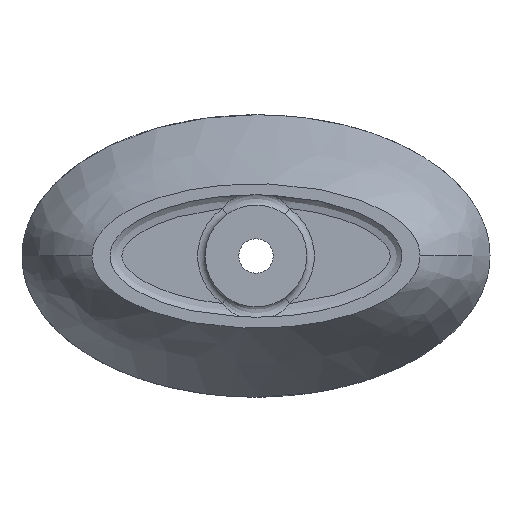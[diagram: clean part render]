
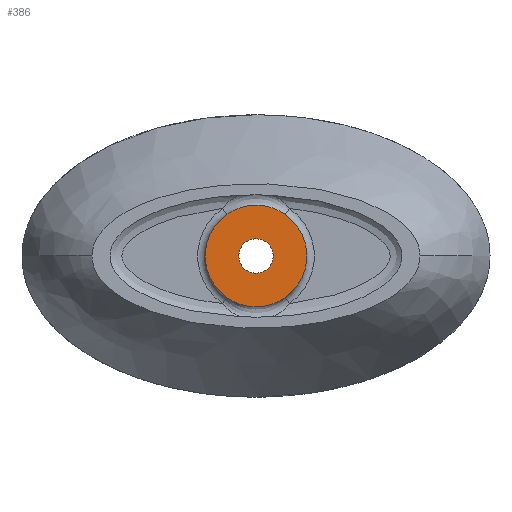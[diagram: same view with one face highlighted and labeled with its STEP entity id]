
A CAD part, front view. The second image highlights one B-rep face of the part: STEP entity #386.
In plain terms, the highlighted planar face has unit normal (0, -1, 0).
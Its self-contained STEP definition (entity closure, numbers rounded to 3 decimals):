
#18=FACE_BOUND('',#78,.T.);
#22=PLANE('',#424);
#52=FACE_OUTER_BOUND('',#77,.T.);
#77=EDGE_LOOP('',(#307,#308,#309,#310));
#78=EDGE_LOOP('',(#311,#312));
#93=CIRCLE('',#416,22.);
#94=CIRCLE('',#417,22.);
#97=CIRCLE('',#425,65.);
#98=CIRCLE('',#426,65.);
#141=B_SPLINE_CURVE_WITH_KNOTS('',3,(#8671,#8672,#8673,#8674,#8675,#8676,
#8677,#8678,#8679,#8680),.UNSPECIFIED.,.F.,.F.,(4,2,2,2,4),(0.,1.972,
4.001,6.028,8.001),.UNSPECIFIED.);
#142=B_SPLINE_CURVE_WITH_KNOTS('',3,(#8683,#8684,#8685,#8686,#8687,#8688,
#8689,#8690,#8691,#8692),.UNSPECIFIED.,.F.,.F.,(4,2,2,2,4),(0.,1.972,
4.001,6.028,8.001),.UNSPECIFIED.);
#153=VERTEX_POINT('',#1194);
#154=VERTEX_POINT('',#1196);
#179=VERTEX_POINT('',#8667);
#180=VERTEX_POINT('',#8668);
#181=VERTEX_POINT('',#8670);
#182=VERTEX_POINT('',#8681);
#192=EDGE_CURVE('',#153,#154,#93,.T.);
#193=EDGE_CURVE('',#154,#153,#94,.T.);
#229=EDGE_CURVE('',#179,#180,#97,.T.);
#230=EDGE_CURVE('',#180,#181,#141,.T.);
#231=EDGE_CURVE('',#181,#182,#98,.T.);
#232=EDGE_CURVE('',#182,#179,#142,.T.);
#307=ORIENTED_EDGE('',*,*,#229,.T.);
#308=ORIENTED_EDGE('',*,*,#230,.T.);
#309=ORIENTED_EDGE('',*,*,#231,.T.);
#310=ORIENTED_EDGE('',*,*,#232,.T.);
#311=ORIENTED_EDGE('',*,*,#193,.F.);
#312=ORIENTED_EDGE('',*,*,#192,.F.);
#386=ADVANCED_FACE('',(#52,#18),#22,.T.);
#416=AXIS2_PLACEMENT_3D('',#1197,#450,#451);
#417=AXIS2_PLACEMENT_3D('',#1198,#452,#453);
#424=AXIS2_PLACEMENT_3D('',#8666,#469,#470);
#425=AXIS2_PLACEMENT_3D('',#8669,#471,#472);
#426=AXIS2_PLACEMENT_3D('',#8682,#473,#474);
#450=DIRECTION('center_axis',(0.,-1.,0.));
#451=DIRECTION('ref_axis',(0.,0.,-1.));
#452=DIRECTION('center_axis',(0.,-1.,0.));
#453=DIRECTION('ref_axis',(0.,0.,-1.));
#469=DIRECTION('center_axis',(0.,-1.,0.));
#470=DIRECTION('ref_axis',(0.,0.,-1.));
#471=DIRECTION('center_axis',(0.,-1.,0.));
#472=DIRECTION('ref_axis',(0.,0.,-1.));
#473=DIRECTION('center_axis',(0.,-1.,0.));
#474=DIRECTION('ref_axis',(0.,0.,-1.));
#1194=CARTESIAN_POINT('',(0.,-22.,22.));
#1196=CARTESIAN_POINT('',(0.,-22.,-22.));
#1197=CARTESIAN_POINT('Origin',(0.,-22.,0.));
#1198=CARTESIAN_POINT('Origin',(0.,-22.,0.));
#8666=CARTESIAN_POINT('Origin',(0.,-22.,0.));
#8667=CARTESIAN_POINT('',(37.425,-22.,-53.145));
#8668=CARTESIAN_POINT('',(37.432,-22.,53.14));
#8669=CARTESIAN_POINT('Origin',(0.,-22.,0.));
#8670=CARTESIAN_POINT('',(-37.425,-22.,53.145));
#8671=CARTESIAN_POINT('Ctrl Pts',(37.432,-22.,53.14));
#8672=CARTESIAN_POINT('Ctrl Pts',(32.058,-22.,56.925));
#8673=CARTESIAN_POINT('Ctrl Pts',(26.149,-22.,59.87));
#8674=CARTESIAN_POINT('Ctrl Pts',(13.461,-22.,63.949));
#8675=CARTESIAN_POINT('Ctrl Pts',(6.752,-22.,65.));
#8676=CARTESIAN_POINT('Ctrl Pts',(-6.738,-22.,65.));
#8677=CARTESIAN_POINT('Ctrl Pts',(-13.434,-22.,63.956));
#8678=CARTESIAN_POINT('Ctrl Pts',(-26.154,-22.,59.87));
#8679=CARTESIAN_POINT('Ctrl Pts',(-32.057,-22.,56.925));
#8680=CARTESIAN_POINT('Ctrl Pts',(-37.425,-22.,53.145));
#8681=CARTESIAN_POINT('',(-37.432,-22.,-53.14));
#8682=CARTESIAN_POINT('Origin',(0.,-22.,0.));
#8683=CARTESIAN_POINT('Ctrl Pts',(-37.432,-22.,-53.14));
#8684=CARTESIAN_POINT('Ctrl Pts',(-32.058,-22.,-56.925));
#8685=CARTESIAN_POINT('Ctrl Pts',(-26.149,-22.,-59.87));
#8686=CARTESIAN_POINT('Ctrl Pts',(-13.461,-22.,-63.949));
#8687=CARTESIAN_POINT('Ctrl Pts',(-6.752,-22.,-65.));
#8688=CARTESIAN_POINT('Ctrl Pts',(6.738,-22.,-65.));
#8689=CARTESIAN_POINT('Ctrl Pts',(13.434,-22.,-63.956));
#8690=CARTESIAN_POINT('Ctrl Pts',(26.153,-22.,-59.87));
#8691=CARTESIAN_POINT('Ctrl Pts',(32.056,-22.,-56.926));
#8692=CARTESIAN_POINT('Ctrl Pts',(37.425,-22.,-53.145));
